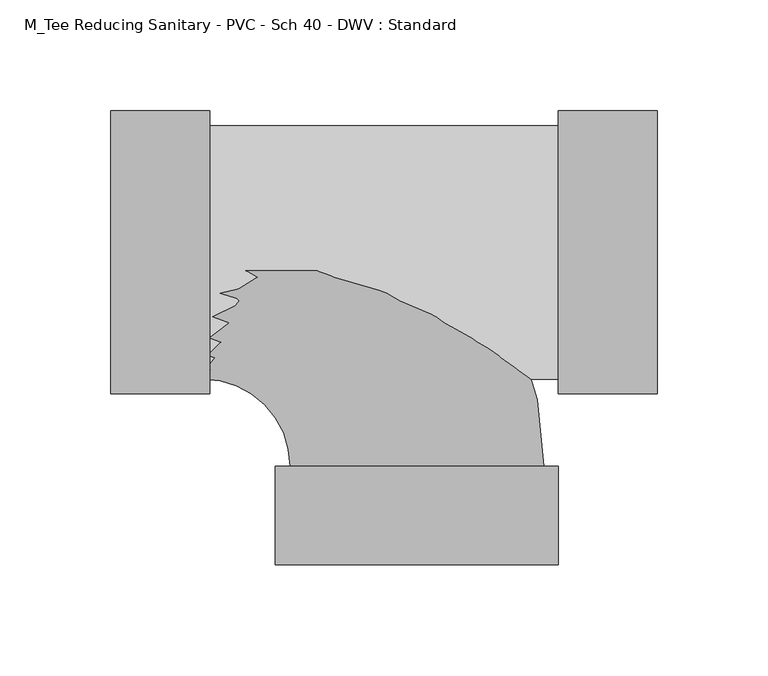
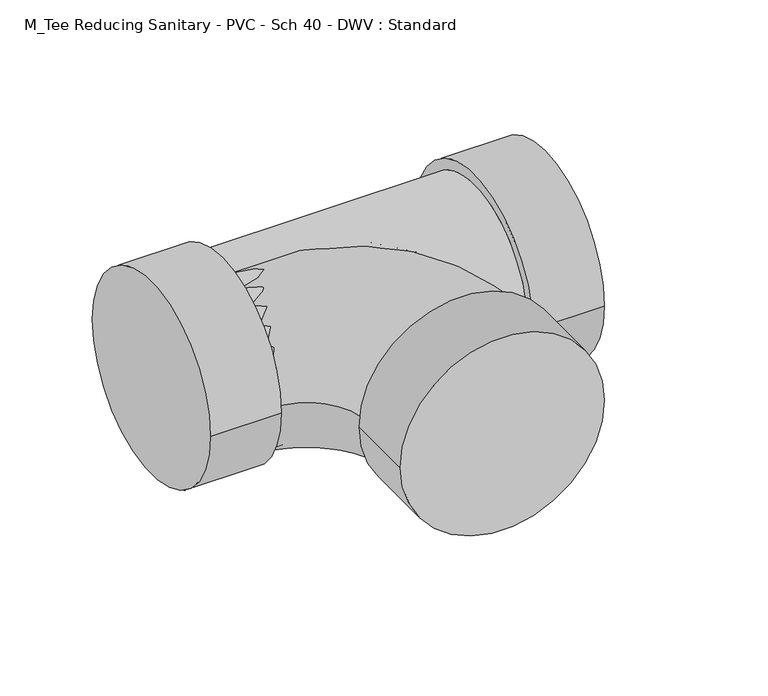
"""IFC4 building model written with IfcOpenShell, lengths in millimetres: pipe fitting geometry, M_Tee Reducing Sanitary - PVC - Sch 40 - DWV : Standard."""

from ifc_helpers import new_model, si_unit, point, frame, origin, place, context, project, spatial, circle_curve, ellipse_curve, trimmed, source, transform, mapped, element, save
from ifc_brep_helpers import plane_surface, cylinder_surface, revolved_surface, advanced_brep


def m_tee_reducing_sanitary_pvc_sch_40_dwv_standard_acb4ff67(model_context):
    return source(origin(), model_context, "Body", "AdvancedBrep", [
        advanced_brep(
        [(63.7538822, -63.754, 0.0), (63.7538822, 63.754, 0.0), (63.7538822, -57.15, 0.0), (63.7538822, 57.15, 0.0), (108.2038822, -63.754, 0.0), (108.2038822, 63.754, 0.0), (-93.4599062, 57.15, 0.0), (-93.4599062, -57.15, 0.0), (-137.9099062, -63.754, 0.0), (-137.9099062, 63.754, 0.0), (-93.4599062, -63.754, 0.0), (-93.4599062, 63.754, 0.0)],
        [
            (0, 1, circle_curve(frame((63.7538822, 0.0, 0.0), z_axis=(-1.0, 0.0, 0.0), x_axis=(0.0, 1.0, 0.0)), 63.754)),
            (1, 0, circle_curve(frame((63.7538822, 0.0, 0.0), z_axis=(-1.0, 0.0, 0.0), x_axis=(0.0, 1.0, 0.0)), 63.754)),
            (2, 3, circle_curve(frame((63.7538822, 0.0, 0.0), z_axis=(1.0, 0.0, 0.0), x_axis=(0.0, 0.0, -1.0)), 57.15)),
            (3, 2, circle_curve(frame((63.7538822, 0.0, 0.0), z_axis=(1.0, 0.0, 0.0), x_axis=(0.0, 0.0, 1.0)), 57.15)),
            (4, 5, circle_curve(frame((108.2038822, 0.0, 0.0), z_axis=(1.0, 0.0, 0.0), x_axis=(0.0, 1.0, 0.0)), 63.754)),
            (5, 4, circle_curve(frame((108.2038822, 0.0, 0.0), z_axis=(1.0, 0.0, 0.0), x_axis=(0.0, 1.0, 0.0)), 63.754)),
            (0, 4),
            (5, 1),
            (6, 3),
            (2, 7),
            (7, 6, circle_curve(frame((-93.4599062, 0.0, 0.0), z_axis=(1.0, 0.0, 0.0), x_axis=(0.0, 0.0, -1.0)), 57.15)),
            (6, 7, circle_curve(frame((-93.4599062, 0.0, 0.0), z_axis=(1.0, 0.0, 0.0), x_axis=(0.0, 0.0, 1.0)), 57.15)),
            (8, 9, circle_curve(frame((-137.9099062, 0.0, 0.0), z_axis=(-1.0, 0.0, 0.0), x_axis=(0.0, 1.0, 0.0)), 63.754)),
            (9, 8, circle_curve(frame((-137.9099062, 0.0, 0.0), z_axis=(-1.0, 0.0, 0.0), x_axis=(0.0, 1.0, 0.0)), 63.754)),
            (10, 11, circle_curve(frame((-93.4599062, 0.0, 0.0), z_axis=(1.0, 0.0, 0.0), x_axis=(0.0, 1.0, 0.0)), 63.754)),
            (11, 10, circle_curve(frame((-93.4599062, 0.0, 0.0), z_axis=(1.0, 0.0, 0.0), x_axis=(0.0, 1.0, 0.0)), 63.754)),
            (8, 10),
            (11, 9),
        ],
        [
            plane_surface(frame((63.7538822, 0.0, 0.0), z_axis=(-1.0, 0.0, 0.0), x_axis=(0.0, 0.0, 1.0))),
            plane_surface(frame((108.2038822, 0.0, 0.0), z_axis=(1.0, 0.0, 0.0), x_axis=(0.0, 0.0, 1.0))),
            cylinder_surface(frame((63.7538822, 0.0, 0.0), z_axis=(-1.0, 0.0, 0.0), x_axis=(0.0, 1.0, 0.0)), 63.754),
            cylinder_surface(frame((-93.4599062, 0.0, 0.0), z_axis=(1.0, 0.0, 0.0), x_axis=(0.0, 0.0, -1.0)), 57.15),
            cylinder_surface(frame((-93.4599062, 0.0, 0.0), z_axis=(1.0, 0.0, 0.0), x_axis=(0.0, 0.0, 1.0)), 57.15),
            plane_surface(frame((-137.9099062, 0.0, 0.0), z_axis=(-1.0, 0.0, 0.0), x_axis=(0.0, 0.0, 1.0))),
            plane_surface(frame((-93.4599062, 0.0, 0.0), z_axis=(1.0, 0.0, 0.0), x_axis=(0.0, 0.0, 1.0))),
            cylinder_surface(frame((-137.9099062, 0.0, 0.0), z_axis=(-1.0, 0.0, 0.0), x_axis=(0.0, 1.0, 0.0)), 63.754),
        ],
        [
            (0, [[1, 2], [3, 4]]),
            (1, [[5, 6]]),
            (2, [[-1, 7, -6, 8]]),
            (2, [[-2, -8, -5, -7]]),
            (3, [[9, -3, 10, 11]]),
            (4, [[-9, 12, -10, -4]]),
            (5, [[13, 14]]),
            (6, [[15, 16], [-11, -12]]),
            (7, [[-13, 17, -16, 18]]),
            (7, [[-14, -18, -15, -17]]),
        ],
    ),
        advanced_brep(
        [(-63.7541178, -96.3475783, 0.0), (63.7538822, -96.3477342, 0.0), (57.1498822, -96.3477261, 0.0), (-57.1501178, -96.3475864, 0.0), (-63.7541722, -140.7975783, 0.0), (63.7538278, -140.7977342, 0.0), (-96.3476562, -57.15, 0.0), (-96.3476562, 57.15, 0.0)],
        [
            (0, 1, circle_curve(frame((-0.0001178, -96.3476562, 0.0), z_axis=(1.2229618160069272e-06, 0.9999999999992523, 0.0), x_axis=(0.9999999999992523, -1.2229618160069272e-06, 0.0)), 63.754)),
            (1, 0, circle_curve(frame((-0.0001178, -96.3476562, 0.0), z_axis=(1.2229618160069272e-06, 0.9999999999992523, 0.0), x_axis=(0.9999999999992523, -1.2229618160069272e-06, 0.0)), 63.754)),
            (2, 3, circle_curve(frame((-0.0001178, -96.3476562, 0.0), z_axis=(-1.2229618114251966e-06, -0.9999999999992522, 0.0), x_axis=(0.9999999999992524, -1.2229618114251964e-06, 0.0)), 57.15)),
            (3, 2, circle_curve(frame((-0.0001178, -96.3476562, 0.0), z_axis=(-1.2229618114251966e-06, -0.9999999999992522, 0.0), x_axis=(0.9999999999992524, -1.2229618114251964e-06, 0.0)), 57.15)),
            (4, 5, circle_curve(frame((-0.0001722, -140.7976562, 0.0), z_axis=(-1.2229618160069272e-06, -0.9999999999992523, 0.0), x_axis=(0.9999999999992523, -1.2229618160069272e-06, 0.0)), 63.754)),
            (5, 4, circle_curve(frame((-0.0001722, -140.7976562, 0.0), z_axis=(-1.2229618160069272e-06, -0.9999999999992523, 0.0), x_axis=(0.9999999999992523, -1.2229618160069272e-06, 0.0)), 63.754)),
            (0, 4),
            (5, 1),
            (6, 7, circle_curve(frame((-96.3476562, 0.0, 0.0), z_axis=(-1.0000000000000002, 0.0, 0.0), x_axis=(0.0, 1.0, 0.0)), 57.15)),
            (7, 6, circle_curve(frame((-96.3476562, 0.0, 0.0), z_axis=(-1.0000000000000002, 0.0, 0.0), x_axis=(0.0, 1.0, 0.0)), 57.15)),
            (6, 3, circle_curve(frame((-96.3476562, -96.3475384, 0.0), z_axis=(0.0, 0.0, -1.0), x_axis=(0.0, 1.0, 0.0)), 39.1975384)),
            (2, 7, circle_curve(frame((-96.3476562, -96.3475384, 0.0), z_axis=(0.0, 0.0, 1.0), x_axis=(0.0, 1.0, 0.0)), 153.4975384)),
        ],
        [
            plane_surface(frame((-0.0001178, -96.3476562, 0.0), z_axis=(1.2229618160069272e-06, 0.9999999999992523, 0.0), x_axis=(0.0, 0.0, 1.0))),
            plane_surface(frame((-0.0001722, -140.7976562, 0.0), z_axis=(-1.2229618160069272e-06, -0.9999999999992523, 0.0), x_axis=(0.0, 0.0, 1.0))),
            cylinder_surface(frame((-0.0001178, -96.3476562, 0.0), z_axis=(1.2229618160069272e-06, 0.9999999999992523, 0.0), x_axis=(0.9999999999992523, -1.2229618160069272e-06, 0.0)), 63.754),
            plane_surface(frame((-96.3476562, 0.0, 0.0), z_axis=(-1.0, 0.0, 0.0), x_axis=(0.0, 0.0, 1.0))),
            revolved_surface(trimmed(ellipse_curve(frame((-96.3476562, 0.0, 0.0), z_axis=(-1.0000000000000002, 0.0, 0.0), x_axis=(0.0, 1.0, 0.0)), 57.15, 57.15), [point((-96.3476562, -57.15, 0.0))], [point((-96.3476562, 57.15, 0.0))], True, "CARTESIAN"), (-96.3476562, -96.3475384, 0.0), (0.0, 0.0, -1.0000000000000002)),
            revolved_surface(trimmed(ellipse_curve(frame((-96.3476562, 0.0, 0.0), z_axis=(-1.0000000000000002, 0.0, 0.0), x_axis=(0.0, 1.0, 0.0)), 57.15, 57.15), [point((-96.3476562, 57.15, 0.0))], [point((-96.3476562, -57.15, 0.0))], True, "CARTESIAN"), (-96.3476562, -96.3475384, 0.0), (0.0, 0.0, -1.0000000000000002)),
        ],
        [
            (0, [[1, 2], [3, 4]]),
            (1, [[5, 6]]),
            (2, [[-1, 7, -6, 8]]),
            (2, [[-2, -8, -5, -7]]),
            (3, [[9, 10]]),
            (4, [[-9, 11, -3, 12]]),
            (5, [[-10, -12, -4, -11]]),
        ],
    ),
    ])


if __name__ == "__main__":
    model = new_model("IFC4")
    model_context = context("Model", 3, world=origin())
    ifc_project = project(units=[si_unit("LENGTHUNIT", "METRE", prefix="MILLI")], contexts=[model_context])
    site = spatial("IfcSite", under=ifc_project)
    building = spatial("IfcBuilding", under=site)
    placement = place(None, origin())
    m_tee_reducing_sanitary_pvc_sch_40_dwv_standard_shape = m_tee_reducing_sanitary_pvc_sch_40_dwv_standard_acb4ff67(model_context)
    element("IfcPipeFitting", 1, ObjectType="M_Tee Reducing Sanitary - PVC - Sch 40 - DWV : Standard", at=placement, inside=building, context=model_context, shape_type="MappedRepresentation", body=[
        mapped(m_tee_reducing_sanitary_pvc_sch_40_dwv_standard_shape, transform((0.0, 0.0, 0.0), x_axis=(1.0, 0.0, 0.0), y_axis=(0.0, 1.0, 0.0), z_axis=(0.0, 0.0, 1.0))),
    ])
    save(model, "model.ifc")
